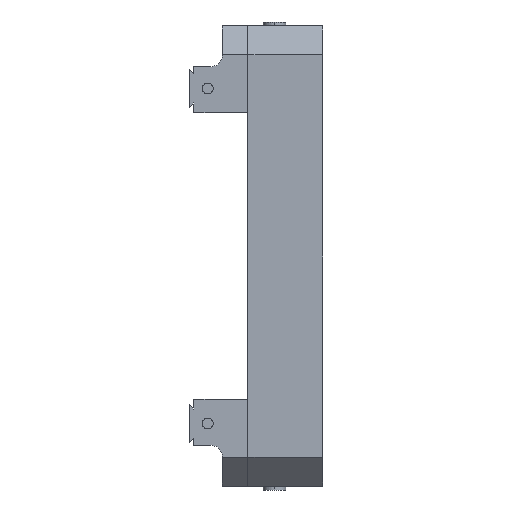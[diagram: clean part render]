
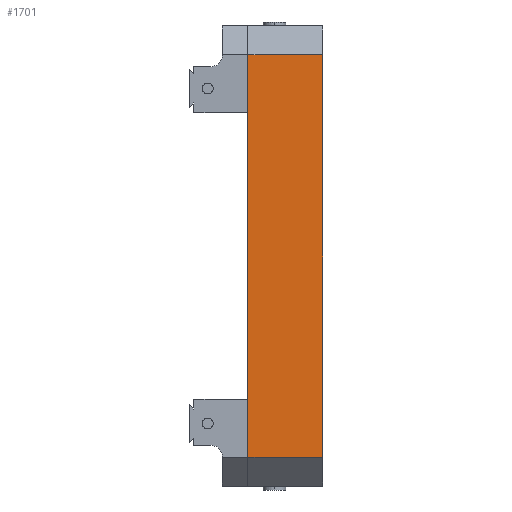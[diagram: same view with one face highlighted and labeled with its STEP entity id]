
A CAD part, left-side view. The second image highlights one B-rep face of the part: STEP entity #1701.
In plain terms, the highlighted planar face has unit normal (-1, 0, 0).
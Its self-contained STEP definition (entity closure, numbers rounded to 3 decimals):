
#195 = CARTESIAN_POINT ( 'NONE',  ( 0., 41.275, 15.875 ) ) ;
#377 = CARTESIAN_POINT ( 'NONE',  ( 0., 41.275, 238.125 ) ) ;
#634 = VERTEX_POINT ( 'NONE', #377 ) ;
#753 = EDGE_CURVE ( 'NONE', #2436, #4089, #2335, .T. ) ;
#764 = CARTESIAN_POINT ( 'NONE',  ( 0., 0., 238.125 ) ) ;
#804 = EDGE_CURVE ( 'NONE', #2306, #634, #1094, .T. ) ;
#942 = LINE ( 'NONE', #1457, #2464 ) ;
#993 = VECTOR ( 'NONE', #2503, 1000. ) ;
#1029 = DIRECTION ( 'NONE',  ( 0., 0., -1. ) ) ;
#1057 = EDGE_CURVE ( 'NONE', #2306, #2436, #942, .T. ) ;
#1094 = LINE ( 'NONE', #764, #993 ) ;
#1223 = ORIENTED_EDGE ( 'NONE', *, *, #2225, .T. ) ;
#1323 = PLANE ( 'NONE',  #1655 ) ;
#1406 = ORIENTED_EDGE ( 'NONE', *, *, #753, .F. ) ;
#1457 = CARTESIAN_POINT ( 'NONE',  ( 0., 0., 254. ) ) ;
#1655 = AXIS2_PLACEMENT_3D ( 'NONE', #3109, #3934, #4809 ) ;
#1701 = ADVANCED_FACE ( 'NONE', ( #4406 ), #1323, .F. ) ;
#2092 = VECTOR ( 'NONE', #2811, 1000. ) ;
#2225 = EDGE_CURVE ( 'NONE', #634, #4089, #5437, .T. ) ;
#2306 = VERTEX_POINT ( 'NONE', #4672 ) ;
#2335 = LINE ( 'NONE', #3635, #2092 ) ;
#2436 = VERTEX_POINT ( 'NONE', #4164 ) ;
#2464 = VECTOR ( 'NONE', #1029, 1000. ) ;
#2503 = DIRECTION ( 'NONE',  ( 0., 1., 0. ) ) ;
#2811 = DIRECTION ( 'NONE',  ( 0., 1., 0. ) ) ;
#3109 = CARTESIAN_POINT ( 'NONE',  ( 0., 0., 254. ) ) ;
#3218 = DIRECTION ( 'NONE',  ( 0., 0., -1. ) ) ;
#3299 = ORIENTED_EDGE ( 'NONE', *, *, #804, .T. ) ;
#3635 = CARTESIAN_POINT ( 'NONE',  ( 0., 0., 15.875 ) ) ;
#3810 = VECTOR ( 'NONE', #3218, 1000. ) ;
#3934 = DIRECTION ( 'NONE',  ( 1., 0., 0. ) ) ;
#4089 = VERTEX_POINT ( 'NONE', #195 ) ;
#4164 = CARTESIAN_POINT ( 'NONE',  ( 0., 0., 15.875 ) ) ;
#4165 = ORIENTED_EDGE ( 'NONE', *, *, #1057, .F. ) ;
#4406 = FACE_OUTER_BOUND ( 'NONE', #4855, .T. ) ;
#4672 = CARTESIAN_POINT ( 'NONE',  ( 0., 0., 238.125 ) ) ;
#4809 = DIRECTION ( 'NONE',  ( 0., 0., -1. ) ) ;
#4855 = EDGE_LOOP ( 'NONE', ( #4165, #3299, #1223, #1406 ) ) ;
#5437 = LINE ( 'NONE', #5496, #3810 ) ;
#5496 = CARTESIAN_POINT ( 'NONE',  ( 0., 41.275, 254. ) ) ;
